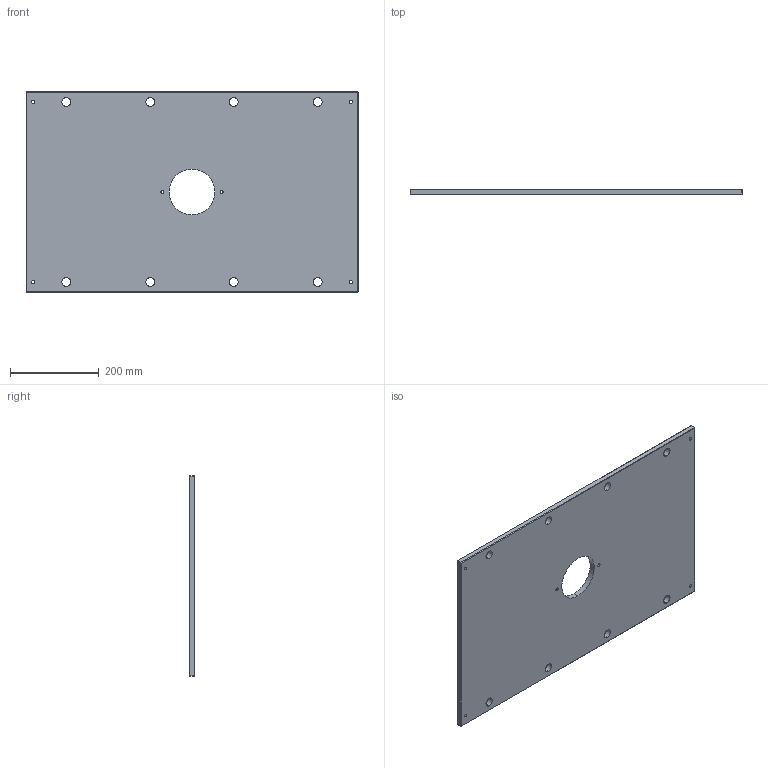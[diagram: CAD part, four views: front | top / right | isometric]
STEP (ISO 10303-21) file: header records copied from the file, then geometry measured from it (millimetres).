
FILE_DESCRIPTION (( 'STEP AP214' ), '1' );
FILE_NAME ('ME-0619-CH-1829.STEP', '2020-02-13T09:56:05', ( '' ), ( '' ), 'SwSTEP 2.0', 'SolidWorks 2018', '' );
FILE_SCHEMA (( 'AUTOMOTIVE_DESIGN' ));
Length unit declared in the file: inch
Products named in the file (1): ME-0619-CH-1829
Bounding box: 746.12 x 12.7 x 450.85 mm (x, y, z)
Volume: 4126619.6 mm3; surface area: 689401.8 mm2
Topology: 1 solids, 1 shells, 68 faces, 162 edges, 96 vertices
Faces by surface type: cylinder 30, plane 26, cone 12
Entity records: 2050 total; most frequent: DIRECTION 372, CARTESIAN_POINT 327, ORIENTED_EDGE 324, EDGE_CURVE 162, AXIS2_PLACEMENT_3D 141, EDGE_LOOP 98, VERTEX_POINT 96, LINE 90
